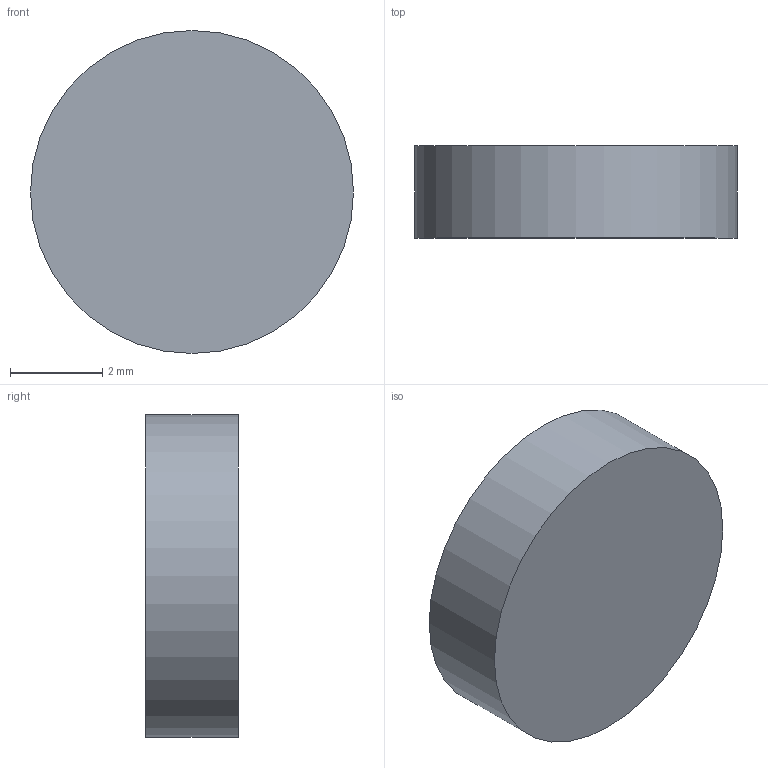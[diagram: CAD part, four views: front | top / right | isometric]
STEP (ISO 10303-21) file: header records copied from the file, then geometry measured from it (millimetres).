
FILE_DESCRIPTION(/* description */ ('STEP AP242 Edition 2','CAx-IF Rec.Pracs.---Representation and Presentation of Product Manufacturing Information (PMI)---4.0---2014-10-13','CAx-IF Rec.Pracs.---3D Tessellated Geometry---0.4---2014-09-14','2;1','CAx-IF Rec.Pracs.---User Defined Attributes---1.5---2016-08-15'),/* implementation_level */ '2;1');
FILE_NAME(/* name */ 'main - ipd turn wheel',/* time_stamp */ '2026-11-08T20:03:43Z',/* author */ (''),/* organization */ (''),/* preprocessor_version */ 'ST-DEVELOPER v20',/* originating_system */ 'ONSHAPE BY PTC INC, 1.223',/* authorisation */ ' ');
FILE_SCHEMA (('AP242_MANAGED_MODEL_BASED_3D_ENGINEERING_MIM_LF { 1 0 10303 442 3 1 4 }'));
Length unit declared in the file: metre
Products named in the file (1): ipd turn wheel
Bounding box: 7 x 2 x 7 mm (x, y, z)
Volume: 77 mm3; surface area: 121 mm2
Topology: 1 solids, 1 shells, 3 faces, 3 edges, 2 vertices
Faces by surface type: plane 2, cylinder 1
Full cylindrical faces by diameter (mm): 7 x1
Entity records: 76 total; most frequent: DIRECTION 12, CARTESIAN_POINT 8, AXIS2_PLACEMENT_3D 6, ORIENTED_EDGE 4, EDGE_LOOP 4, FACE_BOUND 4, ADVANCED_FACE 3, PLANE 2
